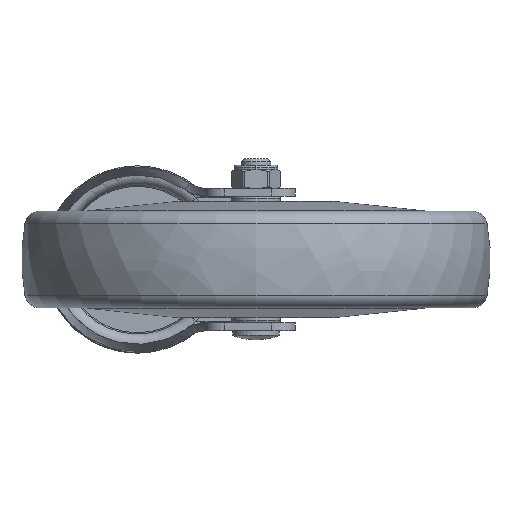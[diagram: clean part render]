
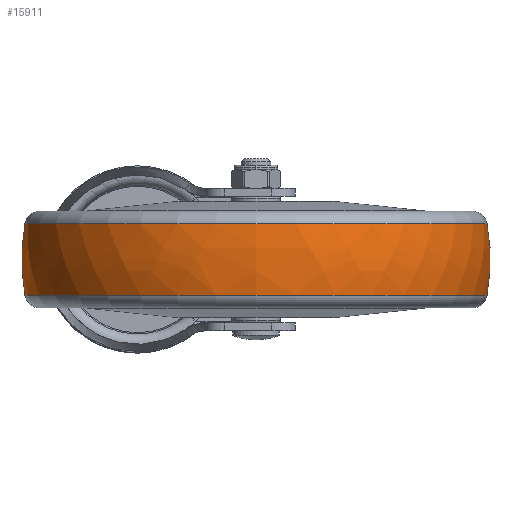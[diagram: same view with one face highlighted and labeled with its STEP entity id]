
A CAD part, front view. The second image highlights one B-rep face of the part: STEP entity #15911.
In plain terms, the highlighted free-form (B-spline) face has degree [3, 3] with [7, 4] control points.
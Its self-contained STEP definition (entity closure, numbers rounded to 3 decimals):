
#15140=CARTESIAN_POINT('',(-11.405,0.,0.));
#15141=DIRECTION('',(-1.,0.,0.));
#15142=DIRECTION('',(0.,1.,0.));
#15143=AXIS2_PLACEMENT_3D('',#15140,#15141,#15142);
#15155=CARTESIAN_POINT('',(0.,12.018,0.));
#15156=DIRECTION('',(0.,0.,1.));
#15157=DIRECTION('',(0.181,0.983,0.));
#15158=AXIS2_PLACEMENT_3D('',#15155,#15156,#15157);
#15160=CARTESIAN_POINT('',(0.,-12.018,0.));
#15161=DIRECTION('',(0.,0.,-1.));
#15162=DIRECTION('',(0.181,-0.983,0.));
#15163=AXIS2_PLACEMENT_3D('',#15160,#15161,#15162);
#15165=CARTESIAN_POINT('',(11.405,0.,0.));
#15166=DIRECTION('',(-1.,0.,0.));
#15167=DIRECTION('',(0.,1.,0.));
#15168=AXIS2_PLACEMENT_3D('',#15165,#15166,#15167);
#15417=CARTESIAN_POINT('',(11.405,73.977,0.));
#15419=VERTEX_POINT('',#15417);
#15420=CARTESIAN_POINT('',(-11.405,73.977,0.));
#15421=VERTEX_POINT('',#15420);
#15469=CARTESIAN_POINT('',(11.405,-73.977,
0.));
#15471=VERTEX_POINT('',#15469);
#15472=CARTESIAN_POINT('',(-11.405,-73.977,
0.));
#15473=VERTEX_POINT('',#15472);
#15875=CARTESIAN_POINT('',(-11.856,-73.746,
4.64));
#15876=CARTESIAN_POINT('',(-4.,-75.249,
4.734));
#15877=CARTESIAN_POINT('',(4.,-75.249,
4.734));
#15878=CARTESIAN_POINT('',(11.856,-73.746,
4.64));
#15879=CARTESIAN_POINT('',(-11.856,-76.601,
-40.744));
#15880=CARTESIAN_POINT('',(-4.,-78.162,
-41.574));
#15881=CARTESIAN_POINT('',(4.,-78.162,
-41.574));
#15882=CARTESIAN_POINT('',(11.856,-76.601,
-40.744));
#15883=CARTESIAN_POINT('',(-11.856,-45.473,
-73.892));
#15884=CARTESIAN_POINT('',(-4.,-46.399,
-75.397));
#15885=CARTESIAN_POINT('',(4.,-46.399,
-75.397));
#15886=CARTESIAN_POINT('',(11.856,-45.473,
-73.892));
#15887=CARTESIAN_POINT('',(-11.856,0.,
-73.892));
#15888=CARTESIAN_POINT('',(-4.,0.,
-75.397));
#15889=CARTESIAN_POINT('',(4.,0.,
-75.397));
#15890=CARTESIAN_POINT('',(11.856,0.,
-73.892));
#15891=CARTESIAN_POINT('',(-11.856,45.473,
-73.892));
#15892=CARTESIAN_POINT('',(-4.,46.399,
-75.397));
#15893=CARTESIAN_POINT('',(4.,46.399,
-75.397));
#15894=CARTESIAN_POINT('',(11.856,45.473,
-73.892));
#15895=CARTESIAN_POINT('',(-11.856,76.601,
-40.744));
#15896=CARTESIAN_POINT('',(-4.,78.162,
-41.574));
#15897=CARTESIAN_POINT('',(4.,78.162,
-41.574));
#15898=CARTESIAN_POINT('',(11.856,76.601,
-40.744));
#15899=CARTESIAN_POINT('',(-11.856,73.746,
4.64));
#15900=CARTESIAN_POINT('',(-4.,75.249,
4.734));
#15901=CARTESIAN_POINT('',(4.,75.249,4.734));
#15902=CARTESIAN_POINT('',(11.856,73.746,4.64));
#15903=(BOUNDED_SURFACE()B_SPLINE_SURFACE(3,3,((#15875,#15876,#15877,#15878),(
#15879,#15880,#15881,#15882),(#15883,#15884,#15885,#15886),(#15887,#15888,
#15889,#15890),(#15891,#15892,#15893,#15894),(#15895,#15896,#15897,#15898),(
#15899,#15900,#15901,#15902)),.UNSPECIFIED.,.F.,.F.,.F.)B_SPLINE_SURFACE_WITH_KNOTS((4,3,4),(4,4),(0.,1.,2.),(0.,1.),.UNSPECIFIED.)GEOMETRIC_REPRESENTATION_ITEM()RATIONAL_B_SPLINE_SURFACE(((1.198,1.184,
1.184,1.198),(0.946,0.935,
0.935,0.946),(0.946,0.935,
0.935,0.946),(1.198,1.184,
1.184,1.198),(0.946,0.935,
0.935,0.946),(0.946,0.935,
0.935,0.946),(1.198,1.184,
1.184,1.198)))REPRESENTATION_ITEM('')SURFACE());
#15904=ORIENTED_EDGE('',*,*,#15865,.T.);
#15905=ORIENTED_EDGE('',*,*,#15818,.T.);
#15906=ORIENTED_EDGE('',*,*,#15869,.F.);
#15908=ORIENTED_EDGE('',*,*,#15907,.F.);
#15909=EDGE_LOOP('',(#15904,#15905,#15906,#15908));
#15910=FACE_OUTER_BOUND('',#15909,.F.);
#15144=CIRCLE('',#15143,73.977);
#15159=CIRCLE('',#15158,63.);
#15164=CIRCLE('',#15163,63.);
#15169=CIRCLE('',#15168,73.977);
#15818=EDGE_CURVE('',#15421,#15473,#15144,.T.);
#15865=EDGE_CURVE('',#15419,#15421,#15159,.T.);
#15869=EDGE_CURVE('',#15471,#15473,#15164,.T.);
#15907=EDGE_CURVE('',#15419,#15471,#15169,.T.);
#15911=ADVANCED_FACE('',(#15910),#15903,.T.);
